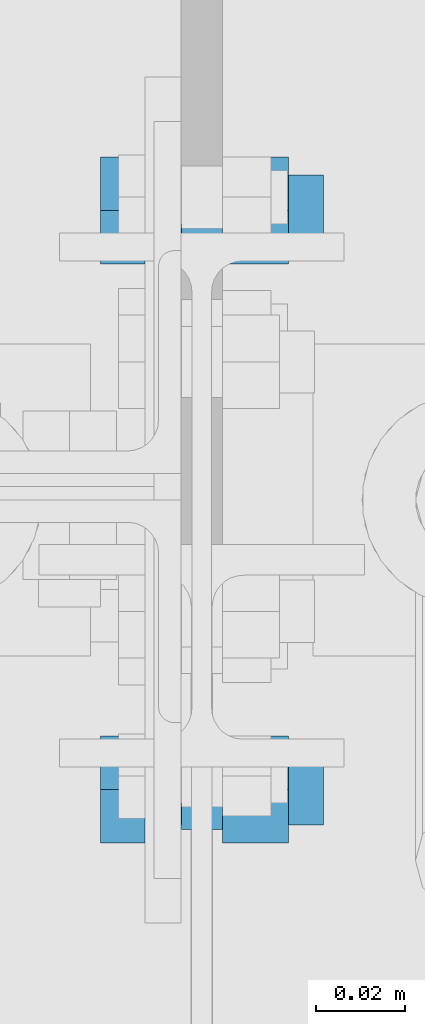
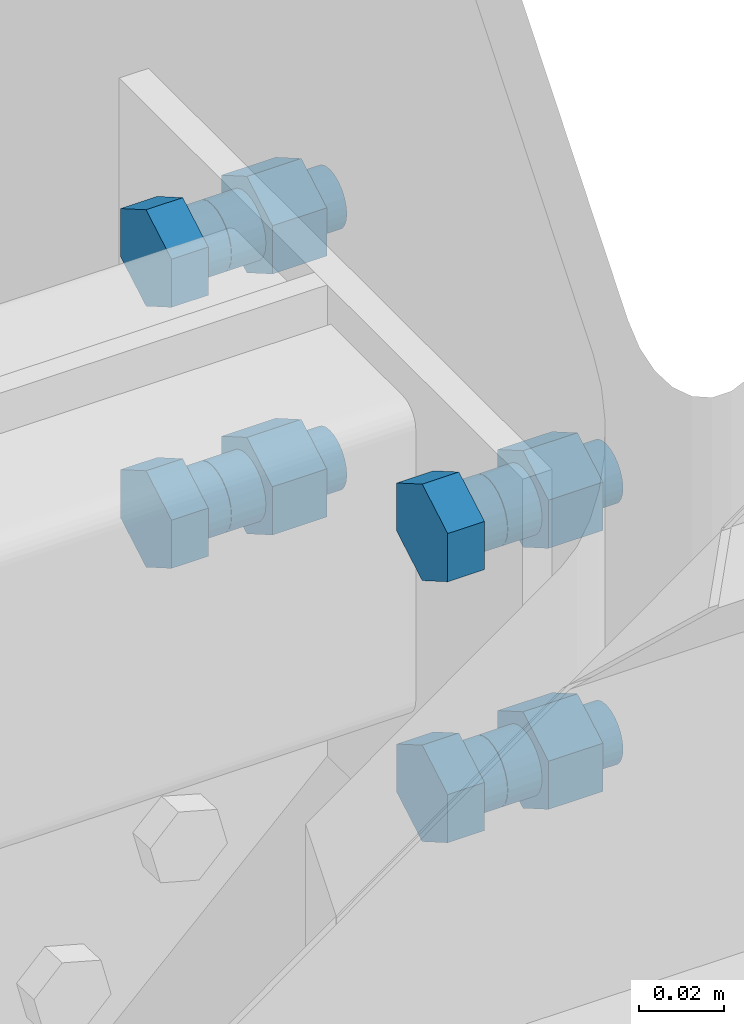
# One storey, part 8 of 21: 1 mechanical fastener.
"""IFC2X3 building model written with IfcOpenShell, lengths in millimetres."""

from ifc_helpers import new_model, si_unit, frame, origin_with_axes, place, context, project, spatial, faceted_brep, element, save


model = new_model("IFC2X3")

# Units and contexts
model_context_1 = context("Model", 3, precision=1e-05, world=origin_with_axes(), identifier="Body")
model_context_2 = context("Model", 3, precision=1e-05, world=origin_with_axes())
ifc_project = project(units=[si_unit("LENGTHUNIT", "METRE", prefix="MILLI"), si_unit("AREAUNIT", "SQUARE_METRE"), si_unit("VOLUMEUNIT", "CUBIC_METRE"), si_unit("MASSUNIT", "GRAM", prefix="KILO"), si_unit("TIMEUNIT", "SECOND"), si_unit("PLANEANGLEUNIT", "RADIAN"), si_unit("SOLIDANGLEUNIT", "STERADIAN"), si_unit("THERMODYNAMICTEMPERATUREUNIT", "DEGREE_CELSIUS"), si_unit("LUMINOUSINTENSITYUNIT", "LUMEN")], contexts=[model_context_1, model_context_2])

# Site, building, storey
site_placement = place(None, origin_with_axes())
site = spatial("IfcSite", under=ifc_project, at=site_placement, Name="Undefined", CompositionType="ELEMENT")
building_placement = place(site_placement, origin_with_axes())
building = spatial("IfcBuilding", under=site, at=building_placement, Name="Undefined", CompositionType="ELEMENT")
storey_placement = place(building_placement, origin_with_axes())
storey = spatial("IfcBuildingStorey", under=building, at=storey_placement, Name="Undefined", CompositionType="ELEMENT")

# Mechanical fastener
mechanical_fastener_placement = place(storey_placement, frame((-9.7286258e-06, -74.999999, 3438.9994), z_axis=(0.0, -1.0, 0.0), x_axis=(1.2908193e-13, -1.8000416e-13, -1.0)))
element("IfcMechanicalFastener", 1, at=mechanical_fastener_placement, inside=storey, Name="Bolt assembly", NominalDiameter=16.0, NominalLength=40.0, context=model_context_1, shape_type="Brep", body=[
    faceted_brep([(13.856406, -22.7, -65.0), (6.9282032, -22.7, -53.0), (-6.9282032, -22.7, -53.0), (-13.856406, -22.7, -65.0), (-6.9282032, -22.7, -77.0), (6.9282032, -22.7, -77.0), (6.9282032, -12.7, -77.0), (-6.9282032, -12.7, -77.0), (-13.856406, -12.7, -65.0), (-6.9282032, -12.7, -53.0), (6.9282032, -12.7, -53.0), (13.856406, -12.7, -65.0), (8.0, -12.7, -65.0), (7.7274066, -12.7, -62.929448), (6.9282032, -12.7, -61.0), (5.6568542, -12.7, -59.343146), (4.0, -12.7, -58.071797), (2.0705524, -12.7, -57.272593), (-8.2906879e-13, -12.7, -57.0), (-2.0705524, -12.7, -57.272593), (-4.0, -12.7, -58.071797), (-5.6568542, -12.7, -59.343146), (-6.9282032, -12.7, -61.0), (-7.7274066, -12.7, -62.929448), (-8.0, -12.7, -65.0), (-7.7274066, -12.7, -67.070552), (-6.9282032, -12.7, -69.0), (-5.6568542, -12.7, -70.656854), (-4.0, -12.7, -71.928203), (-2.0705524, -12.7, -72.727407), (2.4783246e-12, -12.7, -73.0), (2.0705524, -12.7, -72.727407), (4.0, -12.7, -71.928203), (5.6568542, -12.7, -70.656854), (6.9282032, -12.7, -69.0), (7.7274066, -12.7, -67.070552), (7.7274066, 27.3, -67.070552), (6.9282032, 27.3, -69.0), (5.6568542, 27.3, -70.656854), (4.0, 27.3, -71.928203), (2.0705524, 27.3, -72.727407), (2.4783246e-12, 27.3, -73.0), (-2.0705524, 27.3, -72.727407), (-4.0, 27.3, -71.928203), (-5.6568542, 27.3, -70.656854), (-6.9282032, 27.3, -69.0), (-7.7274066, 27.3, -67.070552), (-8.0, 27.3, -65.0), (-7.7274066, 27.3, -62.929448), (-6.9282032, 27.3, -61.0), (-5.6568542, 27.3, -59.343146), (-4.0, 27.3, -58.071797), (-2.0705524, 27.3, -57.272593), (-8.2906879e-13, 27.3, -57.0), (2.0705524, 27.3, -57.272593), (4.0, 27.3, -58.071797), (5.6568542, 27.3, -59.343146), (6.9282032, 27.3, -61.0), (7.7274066, 27.3, -62.929448), (8.0, 27.3, -65.0), (13.856406, 4.7000095, -65.0), (6.9282032, 4.7000095, -53.0), (-6.9282032, 4.7000095, -53.0), (-13.856406, 4.7000095, -65.0), (-6.9282032, 4.7000095, -77.0), (6.9282032, 4.7000095, -77.0), (6.9282032, 19.50001, -77.0), (-6.9282032, 19.50001, -77.0), (-13.856406, 19.50001, -65.0), (-6.9282032, 19.50001, -53.0), (6.9282032, 19.50001, -53.0), (13.856406, 19.50001, -65.0), (88.856406, -22.7, -65.0), (81.928203, -22.7, -53.0), (68.071797, -22.7, -53.0), (61.143594, -22.7, -65.0), (68.071797, -22.7, -77.0), (81.928203, -22.7, -77.0), (81.928203, -12.7, -77.0), (68.071797, -12.7, -77.0), (61.143594, -12.7, -65.0), (68.071797, -12.7, -53.0), (81.928203, -12.7, -53.0), (88.856406, -12.7, -65.0), (83.0, -12.7, -65.0), (82.727407, -12.7, -62.929448), (81.928203, -12.7, -61.0), (80.656854, -12.7, -59.343146), (79.0, -12.7, -58.071797), (77.070552, -12.7, -57.272593), (75.0, -12.7, -57.0), (72.929448, -12.7, -57.272593), (71.0, -12.7, -58.071797), (69.343146, -12.7, -59.343146), (68.071797, -12.7, -61.0), (67.272593, -12.7, -62.929448), (67.0, -12.7, -65.0), (67.272593, -12.7, -67.070552), (68.071797, -12.7, -69.0), (69.343146, -12.7, -70.656854), (71.0, -12.7, -71.928203), (72.929448, -12.7, -72.727407), (75.0, -12.7, -73.0), (77.070552, -12.7, -72.727407), (79.0, -12.7, -71.928203), (80.656854, -12.7, -70.656854), (81.928203, -12.7, -69.0), (82.727407, -12.7, -67.070552), (82.727407, 27.3, -67.070552), (81.928203, 27.3, -69.0), (80.656854, 27.3, -70.656854), (79.0, 27.3, -71.928203), (77.070552, 27.3, -72.727407), (75.0, 27.3, -73.0), (72.929448, 27.3, -72.727407), (71.0, 27.3, -71.928203), (69.343146, 27.3, -70.656854), (68.071797, 27.3, -69.0), (67.272593, 27.3, -67.070552), (67.0, 27.3, -65.0), (67.272593, 27.3, -62.929448), (68.071797, 27.3, -61.0), (69.343146, 27.3, -59.343146), (71.0, 27.3, -58.071797), (72.929448, 27.3, -57.272593), (75.0, 27.3, -57.0), (77.070552, 27.3, -57.272593), (79.0, 27.3, -58.071797), (80.656854, 27.3, -59.343146), (81.928203, 27.3, -61.0), (82.727407, 27.3, -62.929448), (83.0, 27.3, -65.0), (88.856406, 4.7000095, -65.0), (81.928203, 4.7000095, -53.0), (68.071797, 4.7000095, -53.0), (61.143594, 4.7000095, -65.0), (68.071797, 4.7000095, -77.0), (81.928203, 4.7000095, -77.0), (81.928203, 19.50001, -77.0), (68.071797, 19.50001, -77.0), (61.143594, 19.50001, -65.0), (68.071797, 19.50001, -53.0), (81.928203, 19.50001, -53.0), (88.856406, 19.50001, -65.0), (13.856406, -22.7, 65.0), (6.9282032, -22.7, 77.0), (-6.9282032, -22.7, 77.0), (-13.856406, -22.7, 65.0), (-6.9282032, -22.7, 53.0), (6.9282032, -22.7, 53.0), (6.9282032, -12.7, 53.0), (-6.9282032, -12.7, 53.0), (-13.856406, -12.7, 65.0), (-6.9282032, -12.7, 77.0), (6.9282032, -12.7, 77.0), (13.856406, -12.7, 65.0), (8.0, -12.7, 65.0), (7.7274066, -12.7, 67.070552), (6.9282032, -12.7, 69.0), (5.6568542, -12.7, 70.656854), (4.0, -12.7, 71.928203), (2.0705524, -12.7, 72.727407), (-8.2906879e-13, -12.7, 73.0), (-2.0705524, -12.7, 72.727407), (-4.0, -12.7, 71.928203), (-5.6568542, -12.7, 70.656854), (-6.9282032, -12.7, 69.0), (-7.7274066, -12.7, 67.070552), (-8.0, -12.7, 65.0), (-7.7274066, -12.7, 62.929448), (-6.9282032, -12.7, 61.0), (-5.6568542, -12.7, 59.343146), (-4.0, -12.7, 58.071797), (-2.0705524, -12.7, 57.272593), (2.4783246e-12, -12.7, 57.0), (2.0705524, -12.7, 57.272593), (4.0, -12.7, 58.071797), (5.6568542, -12.7, 59.343146), (6.9282032, -12.7, 61.0), (7.7274066, -12.7, 62.929448), (7.7274066, 27.3, 62.929448), (6.9282032, 27.3, 61.0), (5.6568542, 27.3, 59.343146), (4.0, 27.3, 58.071797), (2.0705524, 27.3, 57.272593), (2.4783246e-12, 27.3, 57.0), (-2.0705524, 27.3, 57.272593), (-4.0, 27.3, 58.071797), (-5.6568542, 27.3, 59.343146), (-6.9282032, 27.3, 61.0), (-7.7274066, 27.3, 62.929448), (-8.0, 27.3, 65.0), (-7.7274066, 27.3, 67.070552), (-6.9282032, 27.3, 69.0), (-5.6568542, 27.3, 70.656854), (-4.0, 27.3, 71.928203), (-2.0705524, 27.3, 72.727407), (-8.2906879e-13, 27.3, 73.0), (2.0705524, 27.3, 72.727407), (4.0, 27.3, 71.928203), (5.6568542, 27.3, 70.656854), (6.9282032, 27.3, 69.0), (7.7274066, 27.3, 67.070552), (8.0, 27.3, 65.0), (13.856406, 4.7000095, 65.0), (6.9282032, 4.7000095, 77.0), (-6.9282032, 4.7000095, 77.0), (-13.856406, 4.7000095, 65.0), (-6.9282032, 4.7000095, 53.0), (6.9282032, 4.7000095, 53.0), (6.9282032, 19.50001, 53.0), (-6.9282032, 19.50001, 53.0), (-13.856406, 19.50001, 65.0), (-6.9282032, 19.50001, 77.0), (6.9282032, 19.50001, 77.0), (13.856406, 19.50001, 65.0), (88.856406, -22.7, 65.0), (81.928203, -22.7, 77.0), (68.071797, -22.7, 77.0), (61.143594, -22.7, 65.0), (68.071797, -22.7, 53.0), (81.928203, -22.7, 53.0), (81.928203, -12.7, 53.0), (68.071797, -12.7, 53.0), (61.143594, -12.7, 65.0), (68.071797, -12.7, 77.0), (81.928203, -12.7, 77.0), (88.856406, -12.7, 65.0), (83.0, -12.7, 65.0), (82.727407, -12.7, 67.070552), (81.928203, -12.7, 69.0), (80.656854, -12.7, 70.656854), (79.0, -12.7, 71.928203), (77.070552, -12.7, 72.727407), (75.0, -12.7, 73.0), (72.929448, -12.7, 72.727407), (71.0, -12.7, 71.928203), (69.343146, -12.7, 70.656854), (68.071797, -12.7, 69.0), (67.272593, -12.7, 67.070552), (67.0, -12.7, 65.0), (67.272593, -12.7, 62.929448), (68.071797, -12.7, 61.0), (69.343146, -12.7, 59.343146), (71.0, -12.7, 58.071797), (72.929448, -12.7, 57.272593), (75.0, -12.7, 57.0), (77.070552, -12.7, 57.272593), (79.0, -12.7, 58.071797), (80.656854, -12.7, 59.343146), (81.928203, -12.7, 61.0), (82.727407, -12.7, 62.929448), (82.727407, 27.3, 62.929448), (81.928203, 27.3, 61.0), (80.656854, 27.3, 59.343146), (79.0, 27.3, 58.071797), (77.070552, 27.3, 57.272593), (75.0, 27.3, 57.0), (72.929448, 27.3, 57.272593), (71.0, 27.3, 58.071797), (69.343146, 27.3, 59.343146), (68.071797, 27.3, 61.0), (67.272593, 27.3, 62.929448), (67.0, 27.3, 65.0), (67.272593, 27.3, 67.070552), (68.071797, 27.3, 69.0), (69.343146, 27.3, 70.656854), (71.0, 27.3, 71.928203), (72.929448, 27.3, 72.727407), (75.0, 27.3, 73.0), (77.070552, 27.3, 72.727407), (79.0, 27.3, 71.928203), (80.656854, 27.3, 70.656854), (81.928203, 27.3, 69.0), (82.727407, 27.3, 67.070552), (83.0, 27.3, 65.0), (88.856406, 4.7000095, 65.0), (81.928203, 4.7000095, 77.0), (68.071797, 4.7000095, 77.0), (61.143594, 4.7000095, 65.0), (68.071797, 4.7000095, 53.0), (81.928203, 4.7000095, 53.0), (81.928203, 19.50001, 53.0), (68.071797, 19.50001, 53.0), (61.143594, 19.50001, 65.0), (68.071797, 19.50001, 77.0), (81.928203, 19.50001, 77.0), (88.856406, 19.50001, 65.0)], [[[0, 1, 2, 3, 4, 5]], [[6, 7, 8, 9, 10, 11]], [[0, 11, 10, 1]], [[1, 10, 9, 2]], [[2, 9, 8, 3]], [[3, 8, 7, 4]], [[4, 7, 6, 5]], [[5, 6, 11, 0]], [[12, 13, 14, 15, 16, 17, 18, 19, 20, 21, 22, 23, 24, 25, 26, 27, 28, 29, 30, 31, 32, 33, 34, 35]], [[36, 37, 38, 39, 40, 41, 42, 43, 44, 45, 46, 47, 48, 49, 50, 51, 52, 53, 54, 55, 56, 57, 58, 59]], [[12, 59, 58, 13]], [[13, 58, 57, 14]], [[14, 57, 56, 15]], [[15, 56, 55, 16]], [[16, 55, 54, 17]], [[17, 54, 53, 18]], [[18, 53, 52, 19]], [[19, 52, 51, 20]], [[20, 51, 50, 21]], [[21, 50, 49, 22]], [[22, 49, 48, 23]], [[23, 48, 47, 24]], [[24, 47, 46, 25]], [[25, 46, 45, 26]], [[26, 45, 44, 27]], [[27, 44, 43, 28]], [[28, 43, 42, 29]], [[29, 42, 41, 30]], [[30, 41, 40, 31]], [[31, 40, 39, 32]], [[32, 39, 38, 33]], [[33, 38, 37, 34]], [[34, 37, 36, 35]], [[35, 36, 59, 12]], [[60, 61, 62, 63, 64, 65]], [[66, 67, 68, 69, 70, 71]], [[60, 71, 70, 61]], [[61, 70, 69, 62]], [[62, 69, 68, 63]], [[63, 68, 67, 64]], [[64, 67, 66, 65]], [[65, 66, 71, 60]], [[72, 73, 74, 75, 76, 77]], [[78, 79, 80, 81, 82, 83]], [[72, 83, 82, 73]], [[73, 82, 81, 74]], [[74, 81, 80, 75]], [[75, 80, 79, 76]], [[76, 79, 78, 77]], [[77, 78, 83, 72]], [[84, 85, 86, 87, 88, 89, 90, 91, 92, 93, 94, 95, 96, 97, 98, 99, 100, 101, 102, 103, 104, 105, 106, 107]], [[108, 109, 110, 111, 112, 113, 114, 115, 116, 117, 118, 119, 120, 121, 122, 123, 124, 125, 126, 127, 128, 129, 130, 131]], [[84, 131, 130, 85]], [[85, 130, 129, 86]], [[86, 129, 128, 87]], [[87, 128, 127, 88]], [[88, 127, 126, 89]], [[89, 126, 125, 90]], [[90, 125, 124, 91]], [[91, 124, 123, 92]], [[92, 123, 122, 93]], [[93, 122, 121, 94]], [[94, 121, 120, 95]], [[95, 120, 119, 96]], [[96, 119, 118, 97]], [[97, 118, 117, 98]], [[98, 117, 116, 99]], [[99, 116, 115, 100]], [[100, 115, 114, 101]], [[101, 114, 113, 102]], [[102, 113, 112, 103]], [[103, 112, 111, 104]], [[104, 111, 110, 105]], [[105, 110, 109, 106]], [[106, 109, 108, 107]], [[107, 108, 131, 84]], [[132, 133, 134, 135, 136, 137]], [[138, 139, 140, 141, 142, 143]], [[132, 143, 142, 133]], [[133, 142, 141, 134]], [[134, 141, 140, 135]], [[135, 140, 139, 136]], [[136, 139, 138, 137]], [[137, 138, 143, 132]], [[144, 145, 146, 147, 148, 149]], [[150, 151, 152, 153, 154, 155]], [[144, 155, 154, 145]], [[145, 154, 153, 146]], [[146, 153, 152, 147]], [[147, 152, 151, 148]], [[148, 151, 150, 149]], [[149, 150, 155, 144]], [[156, 157, 158, 159, 160, 161, 162, 163, 164, 165, 166, 167, 168, 169, 170, 171, 172, 173, 174, 175, 176, 177, 178, 179]], [[180, 181, 182, 183, 184, 185, 186, 187, 188, 189, 190, 191, 192, 193, 194, 195, 196, 197, 198, 199, 200, 201, 202, 203]], [[156, 203, 202, 157]], [[157, 202, 201, 158]], [[158, 201, 200, 159]], [[159, 200, 199, 160]], [[160, 199, 198, 161]], [[161, 198, 197, 162]], [[162, 197, 196, 163]], [[163, 196, 195, 164]], [[164, 195, 194, 165]], [[165, 194, 193, 166]], [[166, 193, 192, 167]], [[167, 192, 191, 168]], [[168, 191, 190, 169]], [[169, 190, 189, 170]], [[170, 189, 188, 171]], [[171, 188, 187, 172]], [[172, 187, 186, 173]], [[173, 186, 185, 174]], [[174, 185, 184, 175]], [[175, 184, 183, 176]], [[176, 183, 182, 177]], [[177, 182, 181, 178]], [[178, 181, 180, 179]], [[179, 180, 203, 156]], [[204, 205, 206, 207, 208, 209]], [[210, 211, 212, 213, 214, 215]], [[204, 215, 214, 205]], [[205, 214, 213, 206]], [[206, 213, 212, 207]], [[207, 212, 211, 208]], [[208, 211, 210, 209]], [[209, 210, 215, 204]], [[216, 217, 218, 219, 220, 221]], [[222, 223, 224, 225, 226, 227]], [[216, 227, 226, 217]], [[217, 226, 225, 218]], [[218, 225, 224, 219]], [[219, 224, 223, 220]], [[220, 223, 222, 221]], [[221, 222, 227, 216]], [[228, 229, 230, 231, 232, 233, 234, 235, 236, 237, 238, 239, 240, 241, 242, 243, 244, 245, 246, 247, 248, 249, 250, 251]], [[252, 253, 254, 255, 256, 257, 258, 259, 260, 261, 262, 263, 264, 265, 266, 267, 268, 269, 270, 271, 272, 273, 274, 275]], [[228, 275, 274, 229]], [[229, 274, 273, 230]], [[230, 273, 272, 231]], [[231, 272, 271, 232]], [[232, 271, 270, 233]], [[233, 270, 269, 234]], [[234, 269, 268, 235]], [[235, 268, 267, 236]], [[236, 267, 266, 237]], [[237, 266, 265, 238]], [[238, 265, 264, 239]], [[239, 264, 263, 240]], [[240, 263, 262, 241]], [[241, 262, 261, 242]], [[242, 261, 260, 243]], [[243, 260, 259, 244]], [[244, 259, 258, 245]], [[245, 258, 257, 246]], [[246, 257, 256, 247]], [[247, 256, 255, 248]], [[248, 255, 254, 249]], [[249, 254, 253, 250]], [[250, 253, 252, 251]], [[251, 252, 275, 228]], [[276, 277, 278, 279, 280, 281]], [[282, 283, 284, 285, 286, 287]], [[276, 287, 286, 277]], [[277, 286, 285, 278]], [[278, 285, 284, 279]], [[279, 284, 283, 280]], [[280, 283, 282, 281]], [[281, 282, 287, 276]]]),
    faceted_brep([(9.0, -4.5999901, -65.0), (8.6933324, -4.5999901, -62.670629), (7.7942286, -4.5999901, -60.5), (6.363961, -4.5999901, -58.636039), (4.5, -4.5999901, -57.205771), (2.3293714, -4.5999901, -56.306668), (-9.3270238e-13, -4.5999901, -56.0), (-2.3293714, -4.5999901, -56.306668), (-4.5, -4.5999901, -57.205771), (-6.363961, -4.5999901, -58.636039), (-7.7942286, -4.5999901, -60.5), (-8.6933324, -4.5999901, -62.670629), (-9.0, -4.5999901, -65.0), (-8.6933324, -4.5999901, -67.329371), (-7.7942286, -4.5999901, -69.5), (-6.363961, -4.5999901, -71.363961), (-4.5, -4.5999901, -72.794229), (-2.3293714, -4.5999901, -73.693332), (2.7881151e-12, -4.5999901, -74.0), (2.3293714, -4.5999901, -73.693332), (4.5, -4.5999901, -72.794229), (6.363961, -4.5999901, -71.363961), (7.7942286, -4.5999901, -69.5), (8.6933324, -4.5999901, -67.329371), (8.6933324, 4.8000095, -67.329371), (7.7942286, 4.8000095, -69.5), (6.363961, 4.8000095, -71.363961), (4.5, 4.8000095, -72.794229), (2.3293714, 4.8000095, -73.693332), (2.7881151e-12, 4.8000095, -74.0), (-2.3293714, 4.8000095, -73.693332), (-4.5, 4.8000095, -72.794229), (-6.363961, 4.8000095, -71.363961), (-7.7942286, 4.8000095, -69.5), (-8.6933324, 4.8000095, -67.329371), (-9.0, 4.8000095, -65.0), (-8.6933324, 4.8000095, -62.670629), (-7.7942286, 4.8000095, -60.5), (-6.363961, 4.8000095, -58.636039), (-4.5, 4.8000095, -57.205771), (-2.3293714, 4.8000095, -56.306668), (-9.3270238e-13, 4.8000095, -56.0), (2.3293714, 4.8000095, -56.306668), (4.5, 4.8000095, -57.205771), (6.363961, 4.8000095, -58.636039), (7.7942286, 4.8000095, -60.5), (8.6933324, 4.8000095, -62.670629), (9.0, 4.8000095, -65.0), (9.0, -12.8, -65.0), (8.6933324, -12.8, -62.670629), (7.7942286, -12.8, -60.5), (6.363961, -12.8, -58.636039), (4.5, -12.8, -57.205771), (2.3293714, -12.8, -56.306668), (-9.3270238e-13, -12.8, -56.0), (-2.3293714, -12.8, -56.306668), (-4.5, -12.8, -57.205771), (-6.363961, -12.8, -58.636039), (-7.7942286, -12.8, -60.5), (-8.6933324, -12.8, -62.670629), (-9.0, -12.8, -65.0), (-8.6933324, -12.8, -67.329371), (-7.7942286, -12.8, -69.5), (-6.363961, -12.8, -71.363961), (-4.5, -12.8, -72.794229), (-2.3293714, -12.8, -73.693332), (2.7881151e-12, -12.8, -74.0), (2.3293714, -12.8, -73.693332), (4.5, -12.8, -72.794229), (6.363961, -12.8, -71.363961), (7.7942286, -12.8, -69.5), (8.6933324, -12.8, -67.329371), (8.6933324, -4.7, -67.329371), (7.7942286, -4.7, -69.5), (6.363961, -4.7, -71.363961), (4.5, -4.7, -72.794229), (2.3293714, -4.7, -73.693332), (2.7881151e-12, -4.7, -74.0), (-2.3293714, -4.7, -73.693332), (-4.5, -4.7, -72.794229), (-6.363961, -4.7, -71.363961), (-7.7942286, -4.7, -69.5), (-8.6933324, -4.7, -67.329371), (-9.0, -4.7, -65.0), (-8.6933324, -4.7, -62.670629), (-7.7942286, -4.7, -60.5), (-6.363961, -4.7, -58.636039), (-4.5, -4.7, -57.205771), (-2.3293714, -4.7, -56.306668), (-9.3270238e-13, -4.7, -56.0), (2.3293714, -4.7, -56.306668), (4.5, -4.7, -57.205771), (6.363961, -4.7, -58.636039), (7.7942286, -4.7, -60.5), (8.6933324, -4.7, -62.670629), (9.0, -4.7, -65.0), (84.0, -4.5999901, -65.0), (83.693332, -4.5999901, -62.670629), (82.794229, -4.5999901, -60.5), (81.363961, -4.5999901, -58.636039), (79.5, -4.5999901, -57.205771), (77.329371, -4.5999901, -56.306668), (75.0, -4.5999901, -56.0), (72.670629, -4.5999901, -56.306668), (70.5, -4.5999901, -57.205771), (68.636039, -4.5999901, -58.636039), (67.205771, -4.5999901, -60.5), (66.306668, -4.5999901, -62.670629), (66.0, -4.5999901, -65.0), (66.306668, -4.5999901, -67.329371), (67.205771, -4.5999901, -69.5), (68.636039, -4.5999901, -71.363961), (70.5, -4.5999901, -72.794229), (72.670629, -4.5999901, -73.693332), (75.0, -4.5999901, -74.0), (77.329371, -4.5999901, -73.693332), (79.5, -4.5999901, -72.794229), (81.363961, -4.5999901, -71.363961), (82.794229, -4.5999901, -69.5), (83.693332, -4.5999901, -67.329371), (83.693332, 4.8000095, -67.329371), (82.794229, 4.8000095, -69.5), (81.363961, 4.8000095, -71.363961), (79.5, 4.8000095, -72.794229), (77.329371, 4.8000095, -73.693332), (75.0, 4.8000095, -74.0), (72.670629, 4.8000095, -73.693332), (70.5, 4.8000095, -72.794229), (68.636039, 4.8000095, -71.363961), (67.205771, 4.8000095, -69.5), (66.306668, 4.8000095, -67.329371), (66.0, 4.8000095, -65.0), (66.306668, 4.8000095, -62.670629), (67.205771, 4.8000095, -60.5), (68.636039, 4.8000095, -58.636039), (70.5, 4.8000095, -57.205771), (72.670629, 4.8000095, -56.306668), (75.0, 4.8000095, -56.0), (77.329371, 4.8000095, -56.306668), (79.5, 4.8000095, -57.205771), (81.363961, 4.8000095, -58.636039), (82.794229, 4.8000095, -60.5), (83.693332, 4.8000095, -62.670629), (84.0, 4.8000095, -65.0), (84.0, -12.8, -65.0), (83.693332, -12.8, -62.670629), (82.794229, -12.8, -60.5), (81.363961, -12.8, -58.636039), (79.5, -12.8, -57.205771), (77.329371, -12.8, -56.306668), (75.0, -12.8, -56.0), (72.670629, -12.8, -56.306668), (70.5, -12.8, -57.205771), (68.636039, -12.8, -58.636039), (67.205771, -12.8, -60.5), (66.306668, -12.8, -62.670629), (66.0, -12.8, -65.0), (66.306668, -12.8, -67.329371), (67.205771, -12.8, -69.5), (68.636039, -12.8, -71.363961), (70.5, -12.8, -72.794229), (72.670629, -12.8, -73.693332), (75.0, -12.8, -74.0), (77.329371, -12.8, -73.693332), (79.5, -12.8, -72.794229), (81.363961, -12.8, -71.363961), (82.794229, -12.8, -69.5), (83.693332, -12.8, -67.329371), (83.693332, -4.7, -67.329371), (82.794229, -4.7, -69.5), (81.363961, -4.7, -71.363961), (79.5, -4.7, -72.794229), (77.329371, -4.7, -73.693332), (75.0, -4.7, -74.0), (72.670629, -4.7, -73.693332), (70.5, -4.7, -72.794229), (68.636039, -4.7, -71.363961), (67.205771, -4.7, -69.5), (66.306668, -4.7, -67.329371), (66.0, -4.7, -65.0), (66.306668, -4.7, -62.670629), (67.205771, -4.7, -60.5), (68.636039, -4.7, -58.636039), (70.5, -4.7, -57.205771), (72.670629, -4.7, -56.306668), (75.0, -4.7, -56.0), (77.329371, -4.7, -56.306668), (79.5, -4.7, -57.205771), (81.363961, -4.7, -58.636039), (82.794229, -4.7, -60.5), (83.693332, -4.7, -62.670629), (84.0, -4.7, -65.0), (9.0, -4.5999901, 65.0), (8.6933324, -4.5999901, 67.329371), (7.7942286, -4.5999901, 69.5), (6.363961, -4.5999901, 71.363961), (4.5, -4.5999901, 72.794229), (2.3293714, -4.5999901, 73.693332), (-9.3270238e-13, -4.5999901, 74.0), (-2.3293714, -4.5999901, 73.693332), (-4.5, -4.5999901, 72.794229), (-6.363961, -4.5999901, 71.363961), (-7.7942286, -4.5999901, 69.5), (-8.6933324, -4.5999901, 67.329371), (-9.0, -4.5999901, 65.0), (-8.6933324, -4.5999901, 62.670629), (-7.7942286, -4.5999901, 60.5), (-6.363961, -4.5999901, 58.636039), (-4.5, -4.5999901, 57.205771), (-2.3293714, -4.5999901, 56.306668), (2.7881151e-12, -4.5999901, 56.0), (2.3293714, -4.5999901, 56.306668), (4.5, -4.5999901, 57.205771), (6.363961, -4.5999901, 58.636039), (7.7942286, -4.5999901, 60.5), (8.6933324, -4.5999901, 62.670629), (8.6933324, 4.8000095, 62.670629), (7.7942286, 4.8000095, 60.5), (6.363961, 4.8000095, 58.636039), (4.5, 4.8000095, 57.205771), (2.3293714, 4.8000095, 56.306668), (2.7881151e-12, 4.8000095, 56.0), (-2.3293714, 4.8000095, 56.306668), (-4.5, 4.8000095, 57.205771), (-6.363961, 4.8000095, 58.636039), (-7.7942286, 4.8000095, 60.5), (-8.6933324, 4.8000095, 62.670629), (-9.0, 4.8000095, 65.0), (-8.6933324, 4.8000095, 67.329371), (-7.7942286, 4.8000095, 69.5), (-6.363961, 4.8000095, 71.363961), (-4.5, 4.8000095, 72.794229), (-2.3293714, 4.8000095, 73.693332), (-9.3270238e-13, 4.8000095, 74.0), (2.3293714, 4.8000095, 73.693332), (4.5, 4.8000095, 72.794229), (6.363961, 4.8000095, 71.363961), (7.7942286, 4.8000095, 69.5), (8.6933324, 4.8000095, 67.329371), (9.0, 4.8000095, 65.0), (9.0, -12.8, 65.0), (8.6933324, -12.8, 67.329371), (7.7942286, -12.8, 69.5), (6.363961, -12.8, 71.363961), (4.5, -12.8, 72.794229), (2.3293714, -12.8, 73.693332), (-9.3270238e-13, -12.8, 74.0), (-2.3293714, -12.8, 73.693332), (-4.5, -12.8, 72.794229), (-6.363961, -12.8, 71.363961), (-7.7942286, -12.8, 69.5), (-8.6933324, -12.8, 67.329371), (-9.0, -12.8, 65.0), (-8.6933324, -12.8, 62.670629), (-7.7942286, -12.8, 60.5), (-6.363961, -12.8, 58.636039), (-4.5, -12.8, 57.205771), (-2.3293714, -12.8, 56.306668), (2.7881151e-12, -12.8, 56.0), (2.3293714, -12.8, 56.306668), (4.5, -12.8, 57.205771), (6.363961, -12.8, 58.636039), (7.7942286, -12.8, 60.5), (8.6933324, -12.8, 62.670629), (8.6933324, -4.7, 62.670629), (7.7942286, -4.7, 60.5), (6.363961, -4.7, 58.636039), (4.5, -4.7, 57.205771), (2.3293714, -4.7, 56.306668), (2.7881151e-12, -4.7, 56.0), (-2.3293714, -4.7, 56.306668), (-4.5, -4.7, 57.205771), (-6.363961, -4.7, 58.636039), (-7.7942286, -4.7, 60.5), (-8.6933324, -4.7, 62.670629), (-9.0, -4.7, 65.0), (-8.6933324, -4.7, 67.329371), (-7.7942286, -4.7, 69.5), (-6.363961, -4.7, 71.363961), (-4.5, -4.7, 72.794229), (-2.3293714, -4.7, 73.693332), (-9.3270238e-13, -4.7, 74.0), (2.3293714, -4.7, 73.693332), (4.5, -4.7, 72.794229), (6.363961, -4.7, 71.363961), (7.7942286, -4.7, 69.5), (8.6933324, -4.7, 67.329371), (9.0, -4.7, 65.0), (84.0, -4.5999901, 65.0), (83.693332, -4.5999901, 67.329371), (82.794229, -4.5999901, 69.5), (81.363961, -4.5999901, 71.363961), (79.5, -4.5999901, 72.794229), (77.329371, -4.5999901, 73.693332), (75.0, -4.5999901, 74.0), (72.670629, -4.5999901, 73.693332), (70.5, -4.5999901, 72.794229), (68.636039, -4.5999901, 71.363961), (67.205771, -4.5999901, 69.5), (66.306668, -4.5999901, 67.329371), (66.0, -4.5999901, 65.0), (66.306668, -4.5999901, 62.670629), (67.205771, -4.5999901, 60.5), (68.636039, -4.5999901, 58.636039), (70.5, -4.5999901, 57.205771), (72.670629, -4.5999901, 56.306668), (75.0, -4.5999901, 56.0), (77.329371, -4.5999901, 56.306668), (79.5, -4.5999901, 57.205771), (81.363961, -4.5999901, 58.636039), (82.794229, -4.5999901, 60.5), (83.693332, -4.5999901, 62.670629), (83.693332, 4.8000095, 62.670629), (82.794229, 4.8000095, 60.5), (81.363961, 4.8000095, 58.636039), (79.5, 4.8000095, 57.205771), (77.329371, 4.8000095, 56.306668), (75.0, 4.8000095, 56.0), (72.670629, 4.8000095, 56.306668), (70.5, 4.8000095, 57.205771), (68.636039, 4.8000095, 58.636039), (67.205771, 4.8000095, 60.5), (66.306668, 4.8000095, 62.670629), (66.0, 4.8000095, 65.0), (66.306668, 4.8000095, 67.329371), (67.205771, 4.8000095, 69.5), (68.636039, 4.8000095, 71.363961), (70.5, 4.8000095, 72.794229), (72.670629, 4.8000095, 73.693332), (75.0, 4.8000095, 74.0), (77.329371, 4.8000095, 73.693332), (79.5, 4.8000095, 72.794229), (81.363961, 4.8000095, 71.363961), (82.794229, 4.8000095, 69.5), (83.693332, 4.8000095, 67.329371), (84.0, 4.8000095, 65.0), (84.0, -12.8, 65.0), (83.693332, -12.8, 67.329371), (82.794229, -12.8, 69.5), (81.363961, -12.8, 71.363961), (79.5, -12.8, 72.794229), (77.329371, -12.8, 73.693332), (75.0, -12.8, 74.0), (72.670629, -12.8, 73.693332), (70.5, -12.8, 72.794229), (68.636039, -12.8, 71.363961), (67.205771, -12.8, 69.5), (66.306668, -12.8, 67.329371), (66.0, -12.8, 65.0), (66.306668, -12.8, 62.670629), (67.205771, -12.8, 60.5), (68.636039, -12.8, 58.636039), (70.5, -12.8, 57.205771), (72.670629, -12.8, 56.306668), (75.0, -12.8, 56.0), (77.329371, -12.8, 56.306668), (79.5, -12.8, 57.205771), (81.363961, -12.8, 58.636039), (82.794229, -12.8, 60.5), (83.693332, -12.8, 62.670629), (83.693332, -4.7, 62.670629), (82.794229, -4.7, 60.5), (81.363961, -4.7, 58.636039), (79.5, -4.7, 57.205771), (77.329371, -4.7, 56.306668), (75.0, -4.7, 56.0), (72.670629, -4.7, 56.306668), (70.5, -4.7, 57.205771), (68.636039, -4.7, 58.636039), (67.205771, -4.7, 60.5), (66.306668, -4.7, 62.670629), (66.0, -4.7, 65.0), (66.306668, -4.7, 67.329371), (67.205771, -4.7, 69.5), (68.636039, -4.7, 71.363961), (70.5, -4.7, 72.794229), (72.670629, -4.7, 73.693332), (75.0, -4.7, 74.0), (77.329371, -4.7, 73.693332), (79.5, -4.7, 72.794229), (81.363961, -4.7, 71.363961), (82.794229, -4.7, 69.5), (83.693332, -4.7, 67.329371), (84.0, -4.7, 65.0)], [[[0, 1, 2, 3, 4, 5, 6, 7, 8, 9, 10, 11, 12, 13, 14, 15, 16, 17, 18, 19, 20, 21, 22, 23]], [[24, 25, 26, 27, 28, 29, 30, 31, 32, 33, 34, 35, 36, 37, 38, 39, 40, 41, 42, 43, 44, 45, 46, 47]], [[0, 47, 46, 1]], [[1, 46, 45, 2]], [[2, 45, 44, 3]], [[3, 44, 43, 4]], [[4, 43, 42, 5]], [[5, 42, 41, 6]], [[6, 41, 40, 7]], [[7, 40, 39, 8]], [[8, 39, 38, 9]], [[9, 38, 37, 10]], [[10, 37, 36, 11]], [[11, 36, 35, 12]], [[12, 35, 34, 13]], [[13, 34, 33, 14]], [[14, 33, 32, 15]], [[15, 32, 31, 16]], [[16, 31, 30, 17]], [[17, 30, 29, 18]], [[18, 29, 28, 19]], [[19, 28, 27, 20]], [[20, 27, 26, 21]], [[21, 26, 25, 22]], [[22, 25, 24, 23]], [[23, 24, 47, 0]], [[48, 49, 50, 51, 52, 53, 54, 55, 56, 57, 58, 59, 60, 61, 62, 63, 64, 65, 66, 67, 68, 69, 70, 71]], [[72, 73, 74, 75, 76, 77, 78, 79, 80, 81, 82, 83, 84, 85, 86, 87, 88, 89, 90, 91, 92, 93, 94, 95]], [[48, 95, 94, 49]], [[49, 94, 93, 50]], [[50, 93, 92, 51]], [[51, 92, 91, 52]], [[52, 91, 90, 53]], [[53, 90, 89, 54]], [[54, 89, 88, 55]], [[55, 88, 87, 56]], [[56, 87, 86, 57]], [[57, 86, 85, 58]], [[58, 85, 84, 59]], [[59, 84, 83, 60]], [[60, 83, 82, 61]], [[61, 82, 81, 62]], [[62, 81, 80, 63]], [[63, 80, 79, 64]], [[64, 79, 78, 65]], [[65, 78, 77, 66]], [[66, 77, 76, 67]], [[67, 76, 75, 68]], [[68, 75, 74, 69]], [[69, 74, 73, 70]], [[70, 73, 72, 71]], [[71, 72, 95, 48]], [[96, 97, 98, 99, 100, 101, 102, 103, 104, 105, 106, 107, 108, 109, 110, 111, 112, 113, 114, 115, 116, 117, 118, 119]], [[120, 121, 122, 123, 124, 125, 126, 127, 128, 129, 130, 131, 132, 133, 134, 135, 136, 137, 138, 139, 140, 141, 142, 143]], [[96, 143, 142, 97]], [[97, 142, 141, 98]], [[98, 141, 140, 99]], [[99, 140, 139, 100]], [[100, 139, 138, 101]], [[101, 138, 137, 102]], [[102, 137, 136, 103]], [[103, 136, 135, 104]], [[104, 135, 134, 105]], [[105, 134, 133, 106]], [[106, 133, 132, 107]], [[107, 132, 131, 108]], [[108, 131, 130, 109]], [[109, 130, 129, 110]], [[110, 129, 128, 111]], [[111, 128, 127, 112]], [[112, 127, 126, 113]], [[113, 126, 125, 114]], [[114, 125, 124, 115]], [[115, 124, 123, 116]], [[116, 123, 122, 117]], [[117, 122, 121, 118]], [[118, 121, 120, 119]], [[119, 120, 143, 96]], [[144, 145, 146, 147, 148, 149, 150, 151, 152, 153, 154, 155, 156, 157, 158, 159, 160, 161, 162, 163, 164, 165, 166, 167]], [[168, 169, 170, 171, 172, 173, 174, 175, 176, 177, 178, 179, 180, 181, 182, 183, 184, 185, 186, 187, 188, 189, 190, 191]], [[144, 191, 190, 145]], [[145, 190, 189, 146]], [[146, 189, 188, 147]], [[147, 188, 187, 148]], [[148, 187, 186, 149]], [[149, 186, 185, 150]], [[150, 185, 184, 151]], [[151, 184, 183, 152]], [[152, 183, 182, 153]], [[153, 182, 181, 154]], [[154, 181, 180, 155]], [[155, 180, 179, 156]], [[156, 179, 178, 157]], [[157, 178, 177, 158]], [[158, 177, 176, 159]], [[159, 176, 175, 160]], [[160, 175, 174, 161]], [[161, 174, 173, 162]], [[162, 173, 172, 163]], [[163, 172, 171, 164]], [[164, 171, 170, 165]], [[165, 170, 169, 166]], [[166, 169, 168, 167]], [[167, 168, 191, 144]], [[192, 193, 194, 195, 196, 197, 198, 199, 200, 201, 202, 203, 204, 205, 206, 207, 208, 209, 210, 211, 212, 213, 214, 215]], [[216, 217, 218, 219, 220, 221, 222, 223, 224, 225, 226, 227, 228, 229, 230, 231, 232, 233, 234, 235, 236, 237, 238, 239]], [[192, 239, 238, 193]], [[193, 238, 237, 194]], [[194, 237, 236, 195]], [[195, 236, 235, 196]], [[196, 235, 234, 197]], [[197, 234, 233, 198]], [[198, 233, 232, 199]], [[199, 232, 231, 200]], [[200, 231, 230, 201]], [[201, 230, 229, 202]], [[202, 229, 228, 203]], [[203, 228, 227, 204]], [[204, 227, 226, 205]], [[205, 226, 225, 206]], [[206, 225, 224, 207]], [[207, 224, 223, 208]], [[208, 223, 222, 209]], [[209, 222, 221, 210]], [[210, 221, 220, 211]], [[211, 220, 219, 212]], [[212, 219, 218, 213]], [[213, 218, 217, 214]], [[214, 217, 216, 215]], [[215, 216, 239, 192]], [[240, 241, 242, 243, 244, 245, 246, 247, 248, 249, 250, 251, 252, 253, 254, 255, 256, 257, 258, 259, 260, 261, 262, 263]], [[264, 265, 266, 267, 268, 269, 270, 271, 272, 273, 274, 275, 276, 277, 278, 279, 280, 281, 282, 283, 284, 285, 286, 287]], [[240, 287, 286, 241]], [[241, 286, 285, 242]], [[242, 285, 284, 243]], [[243, 284, 283, 244]], [[244, 283, 282, 245]], [[245, 282, 281, 246]], [[246, 281, 280, 247]], [[247, 280, 279, 248]], [[248, 279, 278, 249]], [[249, 278, 277, 250]], [[250, 277, 276, 251]], [[251, 276, 275, 252]], [[252, 275, 274, 253]], [[253, 274, 273, 254]], [[254, 273, 272, 255]], [[255, 272, 271, 256]], [[256, 271, 270, 257]], [[257, 270, 269, 258]], [[258, 269, 268, 259]], [[259, 268, 267, 260]], [[260, 267, 266, 261]], [[261, 266, 265, 262]], [[262, 265, 264, 263]], [[263, 264, 287, 240]], [[288, 289, 290, 291, 292, 293, 294, 295, 296, 297, 298, 299, 300, 301, 302, 303, 304, 305, 306, 307, 308, 309, 310, 311]], [[312, 313, 314, 315, 316, 317, 318, 319, 320, 321, 322, 323, 324, 325, 326, 327, 328, 329, 330, 331, 332, 333, 334, 335]], [[288, 335, 334, 289]], [[289, 334, 333, 290]], [[290, 333, 332, 291]], [[291, 332, 331, 292]], [[292, 331, 330, 293]], [[293, 330, 329, 294]], [[294, 329, 328, 295]], [[295, 328, 327, 296]], [[296, 327, 326, 297]], [[297, 326, 325, 298]], [[298, 325, 324, 299]], [[299, 324, 323, 300]], [[300, 323, 322, 301]], [[301, 322, 321, 302]], [[302, 321, 320, 303]], [[303, 320, 319, 304]], [[304, 319, 318, 305]], [[305, 318, 317, 306]], [[306, 317, 316, 307]], [[307, 316, 315, 308]], [[308, 315, 314, 309]], [[309, 314, 313, 310]], [[310, 313, 312, 311]], [[311, 312, 335, 288]], [[336, 337, 338, 339, 340, 341, 342, 343, 344, 345, 346, 347, 348, 349, 350, 351, 352, 353, 354, 355, 356, 357, 358, 359]], [[360, 361, 362, 363, 364, 365, 366, 367, 368, 369, 370, 371, 372, 373, 374, 375, 376, 377, 378, 379, 380, 381, 382, 383]], [[336, 383, 382, 337]], [[337, 382, 381, 338]], [[338, 381, 380, 339]], [[339, 380, 379, 340]], [[340, 379, 378, 341]], [[341, 378, 377, 342]], [[342, 377, 376, 343]], [[343, 376, 375, 344]], [[344, 375, 374, 345]], [[345, 374, 373, 346]], [[346, 373, 372, 347]], [[347, 372, 371, 348]], [[348, 371, 370, 349]], [[349, 370, 369, 350]], [[350, 369, 368, 351]], [[351, 368, 367, 352]], [[352, 367, 366, 353]], [[353, 366, 365, 354]], [[354, 365, 364, 355]], [[355, 364, 363, 356]], [[356, 363, 362, 357]], [[357, 362, 361, 358]], [[358, 361, 360, 359]], [[359, 360, 383, 336]]]),
])

save(model, "model.ifc")
